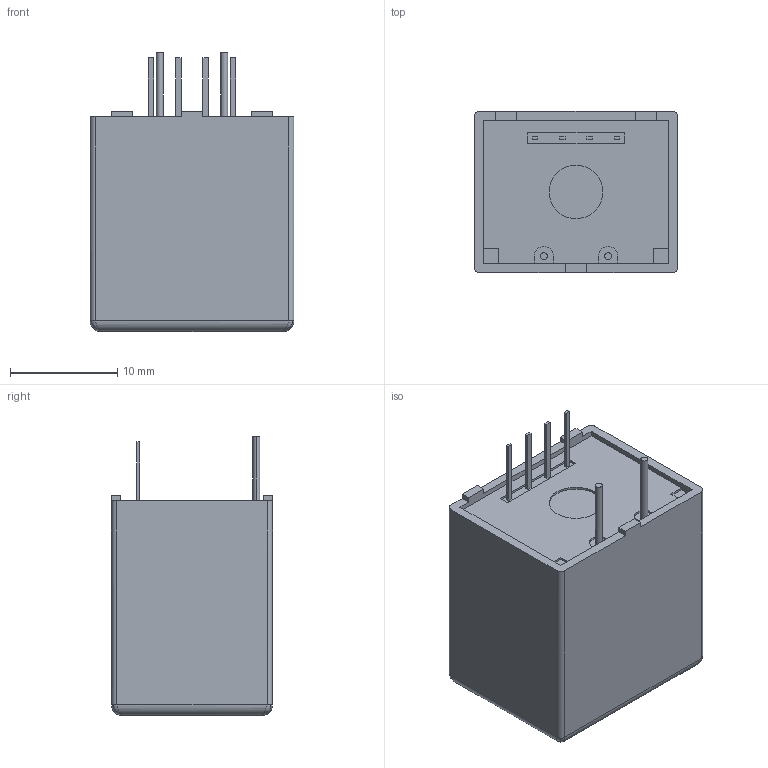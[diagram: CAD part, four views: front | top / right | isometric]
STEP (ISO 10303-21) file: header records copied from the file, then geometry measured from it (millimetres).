
FILE_DESCRIPTION(('CoCreate Modeling STEP Export'),'2;1');
FILE_NAME('LA_10-PB.stp','2014-02-20T19:02:07',(''),(''),'CoCreate Modeling STEP processor for AP214 (Solid Model)','CoCreate Modeling 17.00A 17-Jun-2010 (C) Parametric Technology GmbH','');
FILE_SCHEMA(('AUTOMOTIVE_DESIGN { 1 0 10303 214 1 1 1 1 }'));
Length unit declared in the file: millimetre
Products named in the file (2): LA_10-PB
Assembly tree (1 placements, depth 2):
  LA_10-PB
    LA_10-PB
Bounding box: 19 x 15 x 26 mm (x, y, z)
Volume: 5569.1 mm3; surface area: 1998.4 mm2
Topology: 1 solids, 1 shells, 90 faces, 228 edges, 148 vertices
Faces by surface type: plane 62, cylinder 16, bspline 12
Entity records: 3584 total; most frequent: CARTESIAN_POINT 1152, ORIENTED_EDGE 456, DIRECTION 331, EDGE_CURVE 228, VECTOR 165, LINE 165, VERTEX_POINT 148, EDGE_LOOP 98
